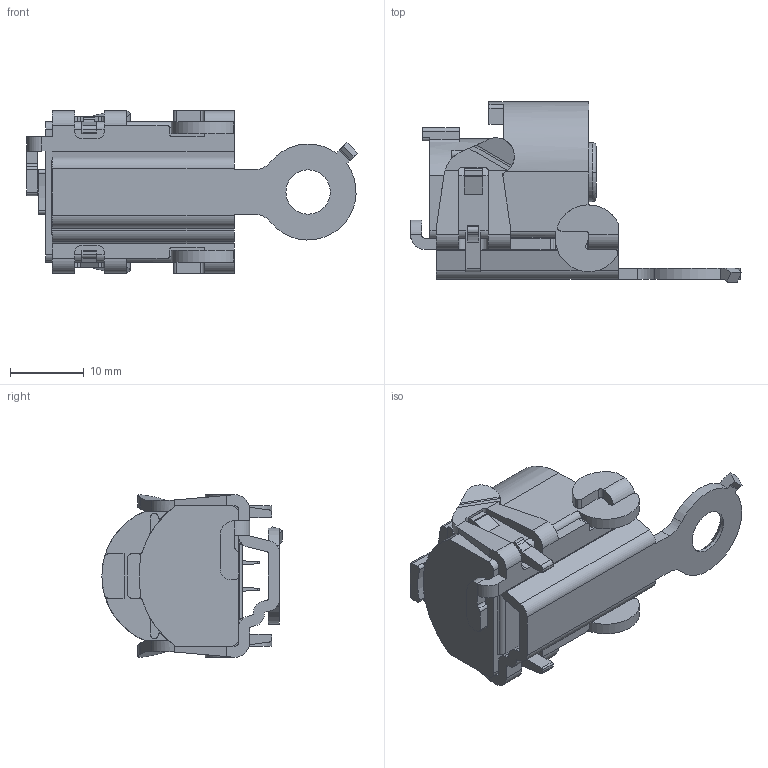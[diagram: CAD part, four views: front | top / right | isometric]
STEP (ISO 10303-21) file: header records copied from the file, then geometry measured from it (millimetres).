
FILE_DESCRIPTION( ( '' ), '1' );
FILE_NAME( '//partserver002.servicenet/client_exchange/iodir/jobs/output/wkb6673185_no6/STEP/e70454_2_03.stp', '2007-03-28T11:17:02', ( '' ), ( '' ), ' ', ' ', ' ' );
FILE_SCHEMA( ( 'CONFIG_CONTROL_DESIGN' ) );
Length unit declared in the file: millimetre
Products named in the file (1): 1
Bounding box: 44.78 x 24.4 x 22 mm (x, y, z)
Volume: 7082.7 mm3; surface area: 5030 mm2
Topology: 1 solids, 2 shells, 396 faces, 1159 edges, 759 vertices
Faces by surface type: plane 217, cylinder 146, torus 19, cone 14
Entity records: 13434 total; most frequent: CARTESIAN_POINT 2485, DIRECTION 2344, ORIENTED_EDGE 2318, EDGE_CURVE 1159, AXIS2_PLACEMENT_3D 808, VERTEX_POINT 759, LINE 728, VECTOR 728
